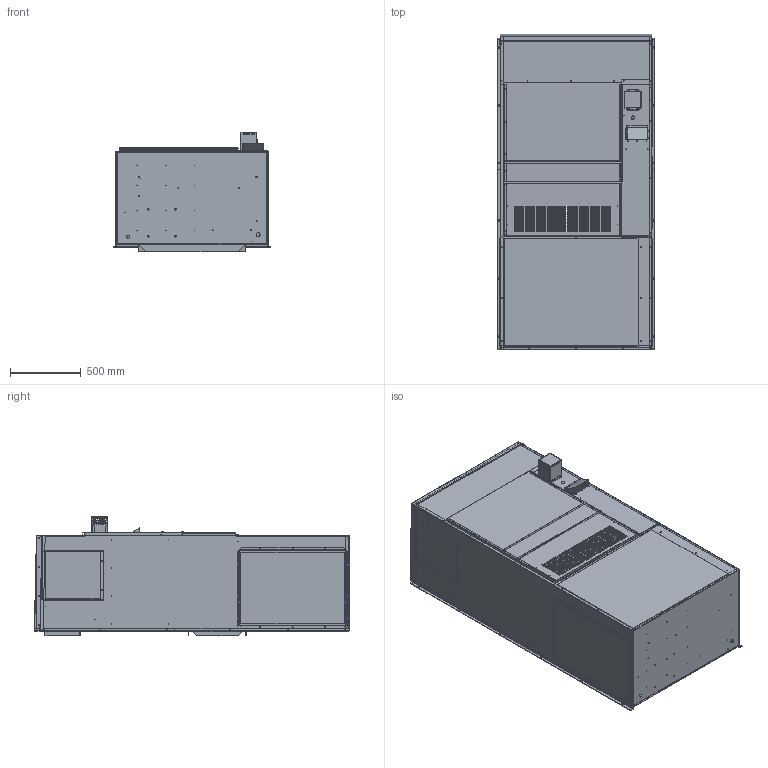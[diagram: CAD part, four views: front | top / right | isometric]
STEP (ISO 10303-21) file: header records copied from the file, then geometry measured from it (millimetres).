
FILE_DESCRIPTION (( 'STEP AP214' ), '1' );
FILE_NAME ('STEP_1800.STEP', '2016-07-11T14:20:26', ( 'BMC' ), ( 'Bard Manufacturing Co., Inc.' ), 'SwSTEP 2.0', 'SolidWorks 2016', '' );
FILE_SCHEMA (( 'AUTOMOTIVE_DESIGN' ));
Length unit declared in the file: inch
Products named in the file (1): STEP_1800
Bounding box: 1112.49 x 2221.68 x 841.9 mm (x, y, z)
Volume: 10072759.1 mm3; surface area: 20102661.3 mm2
Topology: 27 solids, 27 shells, 2974 faces, 8412 edges, 5510 vertices
Faces by surface type: cylinder 1336, plane 1318, bspline 320
Entity records: 111912 total; most frequent: CARTESIAN_POINT 29405, ORIENTED_EDGE 16824, DIRECTION 16459, EDGE_CURVE 8412, AXIS2_PLACEMENT_3D 5729, VERTEX_POINT 5510, VECTOR 5001, LINE 5001
